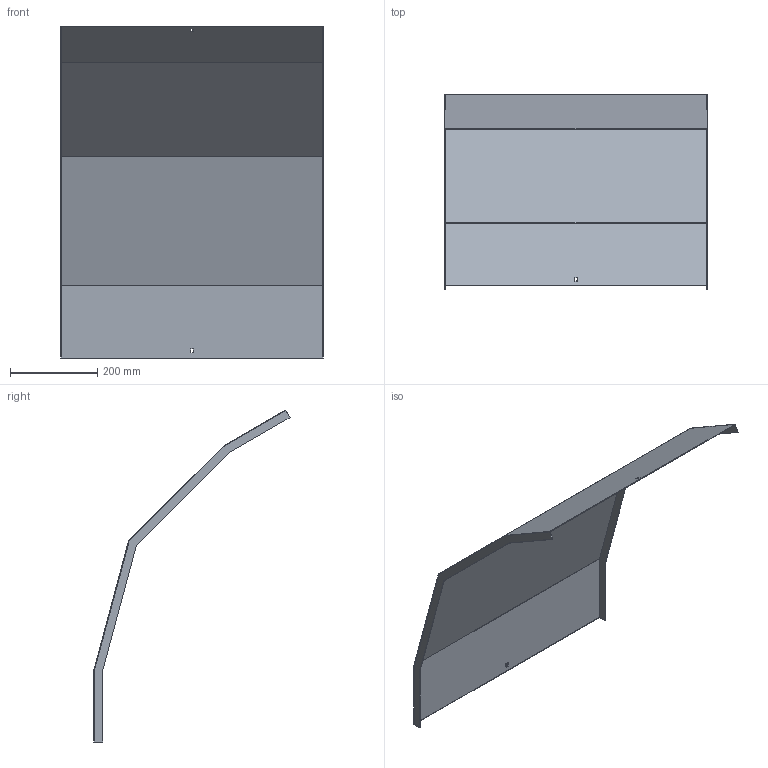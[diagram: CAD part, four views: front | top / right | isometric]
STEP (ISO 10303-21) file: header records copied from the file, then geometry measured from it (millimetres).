
FILE_DESCRIPTION (( 'STEP AP214' ), '1' );
FILE_NAME ('41N5D600.step', '2025-02-21T10:38:17', ( '' ), ( '' ), 'SwSTEP 2.0', 'SolidWorks 2023', '' );
FILE_SCHEMA (( 'AUTOMOTIVE_DESIGN' ));
Length unit declared in the file: millimetre
Products named in the file (1): 41N5D600
Bounding box: 603 x 449.97 x 762.06 mm (x, y, z)
Volume: 905910 mm3; surface area: 1212667.3 mm2
Topology: 1 solids, 1 shells, 30 faces, 84 edges, 56 vertices
Faces by surface type: plane 30
Entity records: 979 total; most frequent: CARTESIAN_POINT 171, ORIENTED_EDGE 168, DIRECTION 146, EDGE_CURVE 84, LINE 84, VECTOR 84, VERTEX_POINT 56, EDGE_LOOP 34
